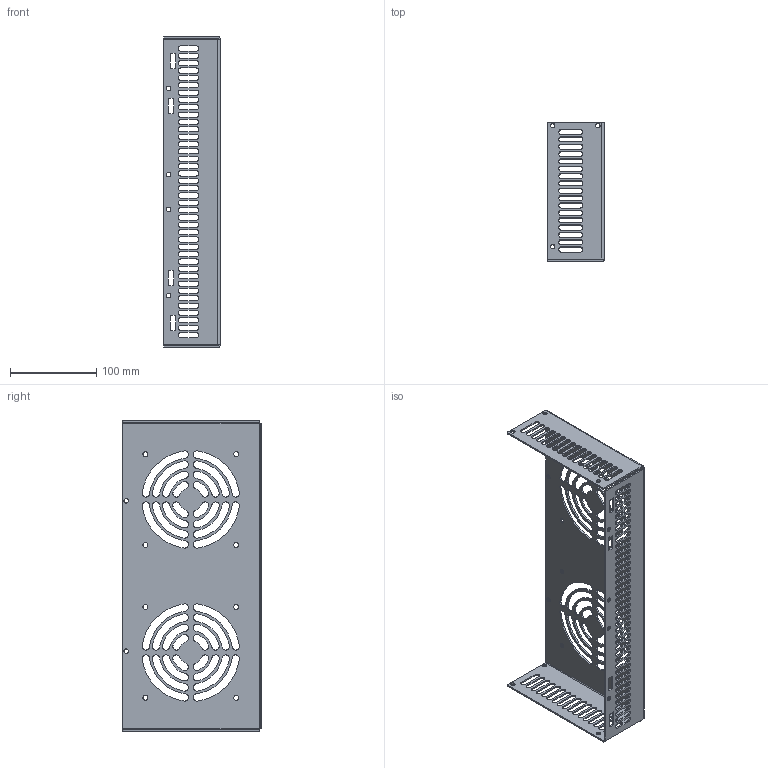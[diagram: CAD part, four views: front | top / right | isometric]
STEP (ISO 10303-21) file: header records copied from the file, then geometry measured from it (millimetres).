
FILE_DESCRIPTION (( 'STEP AP214' ), '1' );
FILE_NAME ('风扇面板-手持盾.STEP', '2026-09-29T10:31:02', ( '微软用户' ), ( '微软中国' ), 'SwSTEP 2.0', 'SolidWorks 2016', '' );
FILE_SCHEMA (( 'AUTOMOTIVE_DESIGN' ));
Length unit declared in the file: millimetre
Products named in the file (1): 瑞圮醱啣-忒厥嗎
Bounding box: 65.5 x 161.3 x 359.6 mm (x, y, z)
Volume: 135587.3 mm3; surface area: 168244.8 mm2
Topology: 1 solids, 1 shells, 634 faces, 1872 edges, 1240 vertices
Faces by surface type: cylinder 446, plane 188
Entity records: 22286 total; most frequent: DIRECTION 4034, CARTESIAN_POINT 3747, ORIENTED_EDGE 3744, EDGE_CURVE 1872, AXIS2_PLACEMENT_3D 1527, VERTEX_POINT 1240, LINE 980, VECTOR 980
